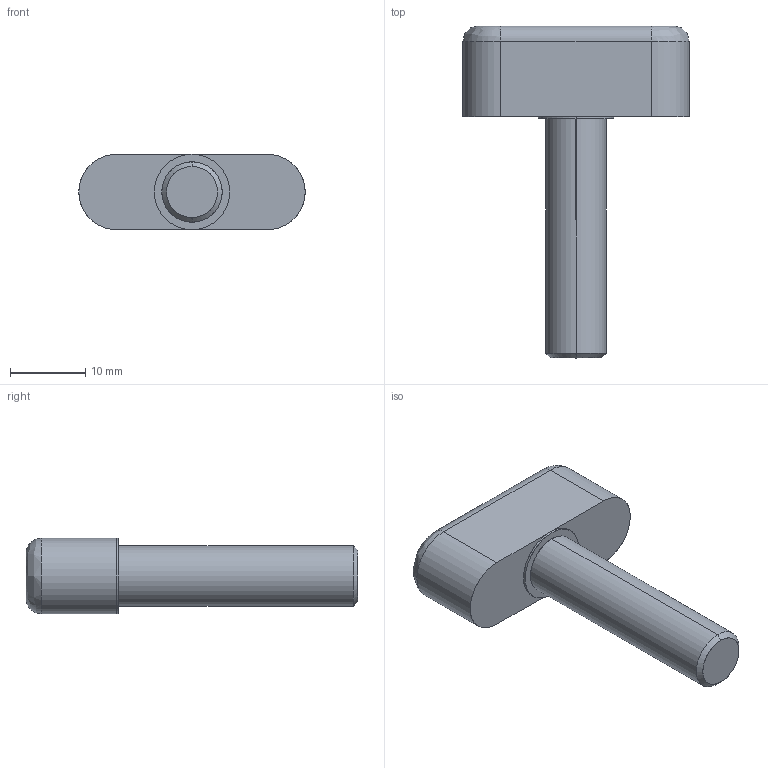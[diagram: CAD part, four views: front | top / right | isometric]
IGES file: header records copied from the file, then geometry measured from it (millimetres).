
Start section: SolidWorks IGES file using analytic representation for surfaces
Global section: file name: C:\Documents and Settings\IanO.IANOHOME\My Documents\Wix and Auto CAD Work\CAD Models\Parametric Models\Wix Models\3738\3738_IGES\3738.W084.igs; native system: SolidWorks 2009; preprocessor: SolidWorks 2009; author: IanO; date: 091209.215743; units: millimetre
Bounding box: 30 x 44 x 10 mm (x, y, z)
Surface area: 2147.5 mm2 (no closed solid volume)
Topology: 0 solids, 0 shells, 19 faces, 256 edges, 256 vertices
Faces by surface type: revolution 10, bspline 9
